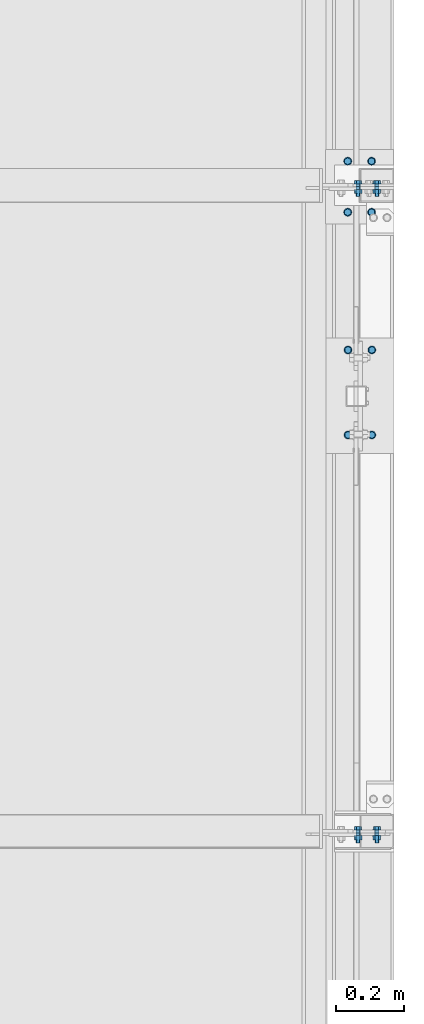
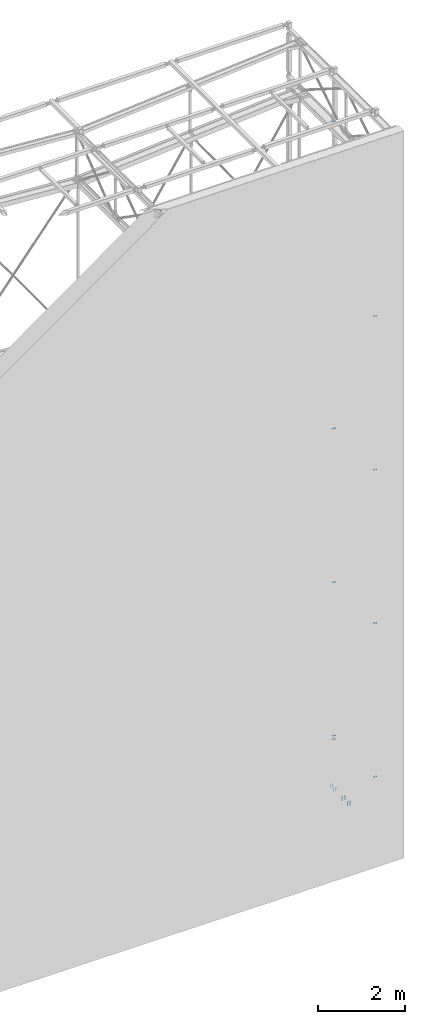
# One storey, part 224 of 271: 11 mechanical fasteners, 10 elements without a shape of their own.
"""IFC2X3 building model written with IfcOpenShell, lengths in millimetres."""

from ifc_helpers import new_model, si_unit, frame, frame_2d, origin_with_axes, origin_2d_with_axis, place, context, subcontext, project, spatial, polyline, circle_curve, parameter, trimmed, segment, composite_curve, circle, outline, extrude, source, transform, mapped, material, type_object, element, aggregate, save


model = new_model("IFC2X3")

# Units and contexts
model_context = context("Model", 3, precision=1e-05, world=origin_with_axes())
body_context = subcontext(model_context, "Body", "Model", "MODEL_VIEW")
ifc_project = project(units=[si_unit("LENGTHUNIT", "METRE", prefix="MILLI"), si_unit("AREAUNIT", "SQUARE_METRE"), si_unit("VOLUMEUNIT", "CUBIC_METRE"), si_unit("MASSUNIT", "GRAM", prefix="KILO"), si_unit("TIMEUNIT", "SECOND"), si_unit("PLANEANGLEUNIT", "RADIAN"), si_unit("SOLIDANGLEUNIT", "STERADIAN"), si_unit("THERMODYNAMICTEMPERATUREUNIT", "DEGREE_CELSIUS"), si_unit("LUMINOUSINTENSITYUNIT", "LUMEN")], contexts=[model_context])

# Site, building, storey
site_placement = place(None, origin_with_axes())
site = spatial("IfcSite", under=ifc_project, at=site_placement, Name="Undefined", CompositionType="ELEMENT")
building_placement = place(site_placement, origin_with_axes())
building = spatial("IfcBuilding", under=site, at=building_placement, Name="Undefined", CompositionType="ELEMENT")
storey_placement = place(building_placement, origin_with_axes())
storey = spatial("IfcBuildingStorey", under=building, at=storey_placement, Name="Undefined", CompositionType="ELEMENT", Elevation=0.0)

# Assembly, mechanical fasteners
assembly_1_placement = place(storey_placement, origin_with_axes())
assembly_1 = element("IfcElementAssembly", 1, at=assembly_1_placement, inside=storey, AssemblyPlace="NOTDEFINED", PredefinedType="REINFORCEMENT_UNIT")
ifc_material = material(Name="Undefined")
mechanical_fastener_type = type_object("IfcMechanicalFastenerType", Name="Bolt assembly")
shared_shape_1 = source(origin_with_axes(), body_context, "Body", "SweptSolid", [
    extrude(circle(Radius=7.0, at=origin_2d_with_axis()), frame((0.0, 8.0, 0.0), z_axis=(0.0, 1.0, 0.0), x_axis=(1.0, 0.0, 0.0)), (0.0, 0.0, 1.0), 16.1),
    extrude(outline(polyline([(10.39230484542, 0.0), (5.19615242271, 9.00000000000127), (-5.19615242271, 9.00000000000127), (-10.39230484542, 0.0), (-5.19615242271, -9.00000000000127), (5.19615242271, -9.00000000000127), (10.39230484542, 0.0)])), frame((0.0, 0.5, 0.0), z_axis=(0.0, 1.0, 0.0), x_axis=(1.0, 0.0, 0.0)), (0.0, 0.0, 1.0), 7.5),
    extrude(circle(Radius=6.0, at=origin_2d_with_axis()), frame((0.0, 8.0, 0.0), z_axis=(0.0, 1.0, 0.0), x_axis=(1.0, 0.0, 0.0)), (0.0, 0.0, 1.0), 100.0),
    extrude(circle(Radius=12.0, at=origin_2d_with_axis()), frame((0.0, 24.0, 0.0), z_axis=(0.0, 1.0, 0.0), x_axis=(1.0, 0.0, 0.0)), (0.0, 0.0, 1.0), 2.5),
    extrude(outline(polyline([(10.96965511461, 0.0), (5.484827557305, 9.50000000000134), (-5.484827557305, 9.50000000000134), (-10.96965511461, 0.0), (-5.484827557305, -9.50000000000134), (5.484827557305, -9.50000000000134), (10.96965511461, 0.0)])), frame((0.0, 26.5, 0.0), z_axis=(0.0, 1.0, 0.0), x_axis=(1.0, 0.0, 0.0)), (0.0, 0.0, 1.0), 10.0),
])
mechanical_fastener_1_placement = place(assembly_1_placement, frame((12607.999999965, 2870.0, 8.0), z_axis=(1.0, 0.0, 0.0), x_axis=(0.0, -1.0, 0.0)))
mechanical_fastener_1 = element("IfcMechanicalFastener", 2, at=mechanical_fastener_1_placement, type_object=mechanical_fastener_type, material=ifc_material, Name="Bolt assembly", NominalDiameter=12.0, NominalLength=100.0, context=body_context, shape_type="MappedRepresentation", body=[
    mapped(shared_shape_1, transform((-4.83169060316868e-13, 0.0, -35.0))),
    mapped(shared_shape_1, transform((150.0, 0.0, -35.0000000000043))),
    mapped(shared_shape_1, transform((5.11590769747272e-13, 0.0, 35.0))),
    mapped(shared_shape_1, transform((150.0, 0.0, 34.9999999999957))),
])
shared_shape_2 = source(origin_with_axes(), body_context, "Body", "SweptSolid", [
    extrude(circle(Radius=7.0, at=origin_2d_with_axis()), frame((0.0, -7.0, 0.0), z_axis=(0.0, 1.0, 0.0), x_axis=(1.0, 0.0, 0.0)), (0.0, 0.0, 1.0), 16.1),
    extrude(outline(polyline([(10.39230484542, 0.0), (5.19615242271, 9.00000000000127), (-5.19615242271, 9.00000000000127), (-10.39230484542, 0.0), (-5.19615242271, -9.00000000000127), (5.19615242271, -9.00000000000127), (10.39230484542, 0.0)])), frame((0.0, -14.5, 0.0), z_axis=(0.0, 1.0, 0.0), x_axis=(1.0, 0.0, 0.0)), (0.0, 0.0, 1.0), 7.5),
    extrude(circle(Radius=6.0, at=origin_2d_with_axis()), frame((0.0, -7.0, 0.0), z_axis=(0.0, 1.0, 0.0), x_axis=(1.0, 0.0, 0.0)), (0.0, 0.0, 1.0), 100.0),
    extrude(circle(Radius=12.0, at=origin_2d_with_axis()), frame((0.0, 9.0, 0.0), z_axis=(0.0, 1.0, 0.0), x_axis=(1.0, 0.0, 0.0)), (0.0, 0.0, 1.0), 2.5),
    extrude(outline(polyline([(10.96965511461, 0.0), (5.484827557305, 9.50000000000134), (-5.484827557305, 9.50000000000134), (-10.96965511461, 0.0), (-5.484827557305, -9.50000000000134), (5.484827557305, -9.50000000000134), (10.96965511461, 0.0)])), frame((0.0, 11.5, 0.0), z_axis=(0.0, 1.0, 0.0), x_axis=(1.0, 0.0, 0.0)), (0.0, 0.0, 1.0), 10.0),
])
mechanical_fastener_2_placement = place(assembly_1_placement, frame((12608.7513747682, 2315.0, -7.0), z_axis=(1.0, 0.0, 0.0), x_axis=(0.0, -1.0, 0.0)))
mechanical_fastener_2 = element("IfcMechanicalFastener", 3, at=mechanical_fastener_2_placement, type_object=mechanical_fastener_type, material=ifc_material, Name="Bolt assembly", NominalDiameter=12.0, NominalLength=100.0, context=body_context, shape_type="MappedRepresentation", body=[
    mapped(shared_shape_2, transform((-4.83169060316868e-13, 0.0, -35.0))),
    mapped(shared_shape_2, transform((250.0, 0.0, -35.0000000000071))),
    mapped(shared_shape_2, transform((5.11590769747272e-13, 0.0, 35.0))),
    mapped(shared_shape_2, transform((250.0, 0.0, 34.9999999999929))),
])
aggregate(assembly_1, [mechanical_fastener_1, mechanical_fastener_2])

# Assembly, mechanical fastener
assembly_2_placement = place(storey_placement, origin_with_axes())
assembly_2 = element("IfcElementAssembly", 4, at=assembly_2_placement, inside=storey, AssemblyPlace="NOTDEFINED", PredefinedType="RIGID_FRAME")
shared_shape_3 = source(origin_with_axes(), body_context, "Body", "SweptSolid", [
    extrude(circle(Radius=6.5, at=origin_2d_with_axis()), frame((0.0, 7.89999999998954, 0.0), z_axis=(0.0, 1.0, 0.0), x_axis=(1.0, 0.0, 0.0)), (0.0, 0.0, 1.0), 8.1),
    extrude(outline(composite_curve([segment(polyline([(6.5, 13.5), (6.5, -13.5)]), True, "CONTINUOUS"), segment(trimmed(circle_curve(frame_2d((0.0, -13.5), x_axis=(1.0, 0.0)), 6.5), [parameter(0.0)], [parameter(3.14159265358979)], False, "PARAMETER"), True, "CONTINUOUS"), segment(polyline([(-6.5, -13.5), (-6.5, 13.5)]), True, "CONTINUOUS"), segment(trimmed(circle_curve(frame_2d((0.0, 13.5), x_axis=(-1.0, 0.0)), 6.5), [parameter(0.0)], [parameter(3.14159265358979)], False, "PARAMETER"), True, "DISCONTINUOUS")], self_intersect=False)), frame((0.0, 0.0999999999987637, 0.0), z_axis=(0.0, 1.0, 0.0), x_axis=(1.0, 0.0, 0.0)), (0.0, 0.0, 1.0), 8.0),
    extrude(outline(polyline([(10.39230484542, 0.0), (5.19615242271, 9.00000000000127), (-5.19615242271, 9.00000000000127), (-10.39230484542, 0.0), (-5.19615242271, -9.00000000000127), (5.19615242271, -9.00000000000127), (10.39230484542, 0.0)])), frame((0.0, -10.0, 0.0), z_axis=(0.0, 1.0, 0.0), x_axis=(1.0, 0.0, 0.0)), (0.0, 0.0, 1.0), 7.5),
    extrude(circle(Radius=6.0, at=origin_2d_with_axis()), frame((0.0, -2.50000000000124, 0.0), z_axis=(0.0, 1.0, 0.0), x_axis=(1.0, 0.0, 0.0)), (0.0, 0.0, 1.0), 40.0),
    extrude(circle(Radius=12.0, at=origin_2d_with_axis()), frame((0.0, -2.50000000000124, 0.0), z_axis=(0.0, 1.0, 0.0), x_axis=(1.0, 0.0, 0.0)), (0.0, 0.0, 1.0), 2.5),
    extrude(circle(Radius=12.0, at=origin_2d_with_axis()), frame((0.0, 16.0, 0.0), z_axis=(0.0, 1.0, 0.0), x_axis=(1.0, 0.0, 0.0)), (0.0, 0.0, 1.0), 2.5),
    extrude(outline(polyline([(10.96965511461, 0.0), (5.484827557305, 9.50000000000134), (-5.484827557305, 9.50000000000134), (-10.96965511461, 0.0), (-5.484827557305, -9.50000000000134), (5.484827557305, -9.50000000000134), (10.96965511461, 0.0)])), frame((0.0, 18.5, 0.0), z_axis=(0.0, 1.0, 0.0), x_axis=(1.0, 0.0, 0.0)), (0.0, 0.0, 1.0), 10.0),
])
mechanical_fastener_3_placement = place(assembly_2_placement, frame((12658.3756870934, 2803.05211980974, 18688.8499999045), z_axis=(0.0, 0.0, 1.0), x_axis=(-1.0, 0.0, 1.38777878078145e-17)))
mechanical_fastener_3 = element("IfcMechanicalFastener", 5, at=mechanical_fastener_3_placement, type_object=mechanical_fastener_type, material=ifc_material, Name="Bolt assembly", NominalDiameter=12.0, NominalLength=40.0, context=body_context, shape_type="MappedRepresentation", body=[
    mapped(shared_shape_3, transform((0.0, 0.0, 0.0))),
    mapped(shared_shape_3, transform((55.0, 0.0, 0.0))),
])
aggregate(assembly_2, [mechanical_fastener_3])

assembly_3_placement = place(storey_placement, origin_with_axes())
assembly_3 = element("IfcElementAssembly", 6, at=assembly_3_placement, inside=storey, AssemblyPlace="NOTDEFINED", PredefinedType="RIGID_FRAME")
shared_shape_4 = source(origin_with_axes(), body_context, "Body", "SweptSolid", [
    extrude(circle(Radius=6.5, at=origin_2d_with_axis()), frame((0.0, 7.89999999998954, 0.0), z_axis=(0.0, 1.0, 0.0), x_axis=(1.0, 0.0, 0.0)), (0.0, 0.0, 1.0), 8.1),
    extrude(outline(composite_curve([segment(polyline([(6.5, 13.5), (6.5, -13.5)]), True, "CONTINUOUS"), segment(trimmed(circle_curve(frame_2d((0.0, -13.5), x_axis=(1.0, 0.0)), 6.5), [parameter(0.0)], [parameter(3.14159265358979)], False, "PARAMETER"), True, "CONTINUOUS"), segment(polyline([(-6.5, -13.5), (-6.5, 13.5)]), True, "CONTINUOUS"), segment(trimmed(circle_curve(frame_2d((0.0, 13.5), x_axis=(-1.0, 0.0)), 6.5), [parameter(0.0)], [parameter(3.14159265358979)], False, "PARAMETER"), True, "DISCONTINUOUS")], self_intersect=False)), frame((0.0, 0.0999999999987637, 0.0), z_axis=(0.0, 1.0, 0.0), x_axis=(1.0, 0.0, 0.0)), (0.0, 0.0, 1.0), 8.0),
    extrude(outline(polyline([(10.39230484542, 0.0), (5.19615242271, 9.00000000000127), (-5.19615242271, 9.00000000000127), (-10.39230484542, 0.0), (-5.19615242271, -9.00000000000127), (5.19615242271, -9.00000000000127), (10.39230484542, 0.0)])), frame((0.0, -10.0, 0.0), z_axis=(0.0, 1.0, 0.0), x_axis=(1.0, 0.0, 0.0)), (0.0, 0.0, 1.0), 7.5),
    extrude(circle(Radius=6.0, at=origin_2d_with_axis()), frame((0.0, -2.50000000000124, 0.0), z_axis=(0.0, 1.0, 0.0), x_axis=(1.0, 0.0, 0.0)), (0.0, 0.0, 1.0), 40.0),
    extrude(circle(Radius=12.0, at=origin_2d_with_axis()), frame((0.0, -2.50000000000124, 0.0), z_axis=(0.0, 1.0, 0.0), x_axis=(1.0, 0.0, 0.0)), (0.0, 0.0, 1.0), 2.5),
    extrude(circle(Radius=12.0, at=origin_2d_with_axis()), frame((0.0, 16.0, 0.0), z_axis=(0.0, 1.0, 0.0), x_axis=(1.0, 0.0, 0.0)), (0.0, 0.0, 1.0), 2.5),
    extrude(outline(polyline([(10.96965511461, 0.0), (5.484827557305, 9.50000000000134), (-5.484827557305, 9.50000000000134), (-10.96965511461, 0.0), (-5.484827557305, -9.50000000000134), (5.484827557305, -9.50000000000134), (10.96965511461, 0.0)])), frame((0.0, 18.5, 0.0), z_axis=(0.0, 1.0, 0.0), x_axis=(1.0, 0.0, 0.0)), (0.0, 0.0, 1.0), 10.0),
])
mechanical_fastener_4_placement = place(assembly_3_placement, frame((12658.3756870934, 2803.05211980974, 1319.8499999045), z_axis=(0.0, 0.0, 1.0), x_axis=(-1.0, 0.0, 1.38777878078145e-17)))
mechanical_fastener_4 = element("IfcMechanicalFastener", 7, at=mechanical_fastener_4_placement, type_object=mechanical_fastener_type, material=ifc_material, Name="Bolt assembly", NominalDiameter=12.0, NominalLength=40.0, context=body_context, shape_type="MappedRepresentation", body=[
    mapped(shared_shape_4, transform((0.0, 0.0, 0.0))),
    mapped(shared_shape_4, transform((55.0, 0.0, 0.0))),
])
aggregate(assembly_3, [mechanical_fastener_4])

assembly_4_placement = place(storey_placement, origin_with_axes())
assembly_4 = element("IfcElementAssembly", 8, at=assembly_4_placement, inside=storey, AssemblyPlace="NOTDEFINED", PredefinedType="RIGID_FRAME")
shared_shape_5 = source(origin_with_axes(), body_context, "Body", "SweptSolid", [
    extrude(circle(Radius=6.5, at=origin_2d_with_axis()), frame((0.0, 7.89999999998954, 0.0), z_axis=(0.0, 1.0, 0.0), x_axis=(1.0, 0.0, 0.0)), (0.0, 0.0, 1.0), 8.1),
    extrude(outline(composite_curve([segment(polyline([(6.5, 13.5), (6.5, -13.5)]), True, "CONTINUOUS"), segment(trimmed(circle_curve(frame_2d((0.0, -13.5), x_axis=(1.0, 0.0)), 6.5), [parameter(0.0)], [parameter(3.14159265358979)], False, "PARAMETER"), True, "CONTINUOUS"), segment(polyline([(-6.5, -13.5), (-6.5, 13.5)]), True, "CONTINUOUS"), segment(trimmed(circle_curve(frame_2d((0.0, 13.5), x_axis=(-1.0, 0.0)), 6.5), [parameter(0.0)], [parameter(3.14159265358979)], False, "PARAMETER"), True, "DISCONTINUOUS")], self_intersect=False)), frame((0.0, 0.0999999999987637, 0.0), z_axis=(0.0, 1.0, 0.0), x_axis=(1.0, 0.0, 0.0)), (0.0, 0.0, 1.0), 8.0),
    extrude(outline(polyline([(10.39230484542, 0.0), (5.19615242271, 9.00000000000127), (-5.19615242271, 9.00000000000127), (-10.39230484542, 0.0), (-5.19615242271, -9.00000000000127), (5.19615242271, -9.00000000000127), (10.39230484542, 0.0)])), frame((0.0, -10.0, 0.0), z_axis=(0.0, 1.0, 0.0), x_axis=(1.0, 0.0, 0.0)), (0.0, 0.0, 1.0), 7.5),
    extrude(circle(Radius=6.0, at=origin_2d_with_axis()), frame((0.0, -2.50000000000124, 0.0), z_axis=(0.0, 1.0, 0.0), x_axis=(1.0, 0.0, 0.0)), (0.0, 0.0, 1.0), 40.0),
    extrude(circle(Radius=12.0, at=origin_2d_with_axis()), frame((0.0, -2.50000000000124, 0.0), z_axis=(0.0, 1.0, 0.0), x_axis=(1.0, 0.0, 0.0)), (0.0, 0.0, 1.0), 2.5),
    extrude(circle(Radius=12.0, at=origin_2d_with_axis()), frame((0.0, 16.0, 0.0), z_axis=(0.0, 1.0, 0.0), x_axis=(1.0, 0.0, 0.0)), (0.0, 0.0, 1.0), 2.5),
    extrude(outline(polyline([(10.96965511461, 0.0), (5.484827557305, 9.50000000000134), (-5.484827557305, 9.50000000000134), (-10.96965511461, 0.0), (-5.484827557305, -9.50000000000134), (5.484827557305, -9.50000000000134), (10.96965511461, 0.0)])), frame((0.0, 18.5, 0.0), z_axis=(0.0, 1.0, 0.0), x_axis=(1.0, 0.0, 0.0)), (0.0, 0.0, 1.0), 10.0),
])
mechanical_fastener_5_placement = place(assembly_4_placement, frame((12658.3756870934, 903.052119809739, 1412.84999990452), z_axis=(0.0, 0.0, 1.0), x_axis=(-1.0, 0.0, 1.38777878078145e-17)))
mechanical_fastener_5 = element("IfcMechanicalFastener", 9, at=mechanical_fastener_5_placement, type_object=mechanical_fastener_type, material=ifc_material, Name="Bolt assembly", NominalDiameter=12.0, NominalLength=40.0, context=body_context, shape_type="MappedRepresentation", body=[
    mapped(shared_shape_5, transform((0.0, 0.0, 0.0))),
    mapped(shared_shape_5, transform((55.0, 0.0, 0.0))),
])
aggregate(assembly_4, [mechanical_fastener_5])

assembly_5_placement = place(storey_placement, origin_with_axes())
assembly_5 = element("IfcElementAssembly", 10, at=assembly_5_placement, inside=storey, AssemblyPlace="NOTDEFINED", PredefinedType="RIGID_FRAME")
shared_shape_6 = source(origin_with_axes(), body_context, "Body", "SweptSolid", [
    extrude(circle(Radius=6.5, at=origin_2d_with_axis()), frame((0.0, 7.89999999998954, 0.0), z_axis=(0.0, 1.0, 0.0), x_axis=(1.0, 0.0, 0.0)), (0.0, 0.0, 1.0), 8.1),
    extrude(outline(composite_curve([segment(polyline([(6.5, 13.5), (6.5, -13.5)]), True, "CONTINUOUS"), segment(trimmed(circle_curve(frame_2d((0.0, -13.5), x_axis=(1.0, 0.0)), 6.5), [parameter(0.0)], [parameter(3.14159265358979)], False, "PARAMETER"), True, "CONTINUOUS"), segment(polyline([(-6.5, -13.5), (-6.5, 13.5)]), True, "CONTINUOUS"), segment(trimmed(circle_curve(frame_2d((0.0, 13.5), x_axis=(-1.0, 0.0)), 6.5), [parameter(0.0)], [parameter(3.14159265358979)], False, "PARAMETER"), True, "DISCONTINUOUS")], self_intersect=False)), frame((0.0, 0.0999999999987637, 0.0), z_axis=(0.0, 1.0, 0.0), x_axis=(1.0, 0.0, 0.0)), (0.0, 0.0, 1.0), 8.0),
    extrude(outline(polyline([(10.39230484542, 0.0), (5.19615242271, 9.00000000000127), (-5.19615242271, 9.00000000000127), (-10.39230484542, 0.0), (-5.19615242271, -9.00000000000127), (5.19615242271, -9.00000000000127), (10.39230484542, 0.0)])), frame((0.0, -10.0, 0.0), z_axis=(0.0, 1.0, 0.0), x_axis=(1.0, 0.0, 0.0)), (0.0, 0.0, 1.0), 7.5),
    extrude(circle(Radius=6.0, at=origin_2d_with_axis()), frame((0.0, -2.50000000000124, 0.0), z_axis=(0.0, 1.0, 0.0), x_axis=(1.0, 0.0, 0.0)), (0.0, 0.0, 1.0), 40.0),
    extrude(circle(Radius=12.0, at=origin_2d_with_axis()), frame((0.0, -2.50000000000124, 0.0), z_axis=(0.0, 1.0, 0.0), x_axis=(1.0, 0.0, 0.0)), (0.0, 0.0, 1.0), 2.5),
    extrude(circle(Radius=12.0, at=origin_2d_with_axis()), frame((0.0, 16.0, 0.0), z_axis=(0.0, 1.0, 0.0), x_axis=(1.0, 0.0, 0.0)), (0.0, 0.0, 1.0), 2.5),
    extrude(outline(polyline([(10.96965511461, 0.0), (5.484827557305, 9.50000000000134), (-5.484827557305, 9.50000000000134), (-10.96965511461, 0.0), (-5.484827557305, -9.50000000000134), (5.484827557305, -9.50000000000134), (10.96965511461, 0.0)])), frame((0.0, 18.5, 0.0), z_axis=(0.0, 1.0, 0.0), x_axis=(1.0, 0.0, 0.0)), (0.0, 0.0, 1.0), 10.0),
])
mechanical_fastener_6_placement = place(assembly_5_placement, frame((12658.3756870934, 2803.05211980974, 1412.84999990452), z_axis=(0.0, 0.0, 1.0), x_axis=(-1.0, 0.0, 1.38777878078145e-17)))
mechanical_fastener_6 = element("IfcMechanicalFastener", 11, at=mechanical_fastener_6_placement, type_object=mechanical_fastener_type, material=ifc_material, Name="Bolt assembly", NominalDiameter=12.0, NominalLength=40.0, context=body_context, shape_type="MappedRepresentation", body=[
    mapped(shared_shape_6, transform((0.0, 0.0, 0.0))),
    mapped(shared_shape_6, transform((55.0, 0.0, 0.0))),
])
aggregate(assembly_5, [mechanical_fastener_6])

assembly_6_placement = place(storey_placement, origin_with_axes())
assembly_6 = element("IfcElementAssembly", 12, at=assembly_6_placement, inside=storey, AssemblyPlace="NOTDEFINED", PredefinedType="RIGID_FRAME")
shared_shape_7 = source(origin_with_axes(), body_context, "Body", "SweptSolid", [
    extrude(circle(Radius=6.5, at=origin_2d_with_axis()), frame((0.0, 7.89999999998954, 0.0), z_axis=(0.0, 1.0, 0.0), x_axis=(1.0, 0.0, 0.0)), (0.0, 0.0, 1.0), 8.1),
    extrude(outline(composite_curve([segment(polyline([(6.5, 13.5), (6.5, -13.5)]), True, "CONTINUOUS"), segment(trimmed(circle_curve(frame_2d((0.0, -13.5), x_axis=(1.0, 0.0)), 6.5), [parameter(0.0)], [parameter(3.14159265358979)], False, "PARAMETER"), True, "CONTINUOUS"), segment(polyline([(-6.5, -13.5), (-6.5, 13.5)]), True, "CONTINUOUS"), segment(trimmed(circle_curve(frame_2d((0.0, 13.5), x_axis=(-1.0, 0.0)), 6.5), [parameter(0.0)], [parameter(3.14159265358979)], False, "PARAMETER"), True, "DISCONTINUOUS")], self_intersect=False)), frame((0.0, 0.0999999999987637, 0.0), z_axis=(0.0, 1.0, 0.0), x_axis=(1.0, 0.0, 0.0)), (0.0, 0.0, 1.0), 8.0),
    extrude(outline(polyline([(10.39230484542, 0.0), (5.19615242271, 9.00000000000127), (-5.19615242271, 9.00000000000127), (-10.39230484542, 0.0), (-5.19615242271, -9.00000000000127), (5.19615242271, -9.00000000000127), (10.39230484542, 0.0)])), frame((0.0, -10.0, 0.0), z_axis=(0.0, 1.0, 0.0), x_axis=(1.0, 0.0, 0.0)), (0.0, 0.0, 1.0), 7.5),
    extrude(circle(Radius=6.0, at=origin_2d_with_axis()), frame((0.0, -2.50000000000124, 0.0), z_axis=(0.0, 1.0, 0.0), x_axis=(1.0, 0.0, 0.0)), (0.0, 0.0, 1.0), 40.0),
    extrude(circle(Radius=12.0, at=origin_2d_with_axis()), frame((0.0, -2.50000000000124, 0.0), z_axis=(0.0, 1.0, 0.0), x_axis=(1.0, 0.0, 0.0)), (0.0, 0.0, 1.0), 2.5),
    extrude(circle(Radius=12.0, at=origin_2d_with_axis()), frame((0.0, 16.0, 0.0), z_axis=(0.0, 1.0, 0.0), x_axis=(1.0, 0.0, 0.0)), (0.0, 0.0, 1.0), 2.5),
    extrude(outline(polyline([(10.96965511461, 0.0), (5.484827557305, 9.50000000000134), (-5.484827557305, 9.50000000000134), (-10.96965511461, 0.0), (-5.484827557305, -9.50000000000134), (5.484827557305, -9.50000000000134), (10.96965511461, 0.0)])), frame((0.0, 18.5, 0.0), z_axis=(0.0, 1.0, 0.0), x_axis=(1.0, 0.0, 0.0)), (0.0, 0.0, 1.0), 10.0),
])
mechanical_fastener_7_placement = place(assembly_6_placement, frame((12658.3756870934, 903.052119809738, 5732.84999990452), z_axis=(0.0, 0.0, 1.0), x_axis=(-1.0, 0.0, 1.38777878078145e-17)))
mechanical_fastener_7 = element("IfcMechanicalFastener", 13, at=mechanical_fastener_7_placement, type_object=mechanical_fastener_type, material=ifc_material, Name="Bolt assembly", NominalDiameter=12.0, NominalLength=40.0, context=body_context, shape_type="MappedRepresentation", body=[
    mapped(shared_shape_7, transform((0.0, 0.0, 0.0))),
    mapped(shared_shape_7, transform((55.0, 0.0, 0.0))),
])
aggregate(assembly_6, [mechanical_fastener_7])

assembly_7_placement = place(storey_placement, origin_with_axes())
assembly_7 = element("IfcElementAssembly", 14, at=assembly_7_placement, inside=storey, AssemblyPlace="NOTDEFINED", PredefinedType="RIGID_FRAME")
shared_shape_8 = source(origin_with_axes(), body_context, "Body", "SweptSolid", [
    extrude(circle(Radius=6.5, at=origin_2d_with_axis()), frame((0.0, 7.89999999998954, 0.0), z_axis=(0.0, 1.0, 0.0), x_axis=(1.0, 0.0, 0.0)), (0.0, 0.0, 1.0), 8.1),
    extrude(outline(composite_curve([segment(polyline([(6.5, 13.5), (6.5, -13.5)]), True, "CONTINUOUS"), segment(trimmed(circle_curve(frame_2d((0.0, -13.5), x_axis=(1.0, 0.0)), 6.5), [parameter(0.0)], [parameter(3.14159265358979)], False, "PARAMETER"), True, "CONTINUOUS"), segment(polyline([(-6.5, -13.5), (-6.5, 13.5)]), True, "CONTINUOUS"), segment(trimmed(circle_curve(frame_2d((0.0, 13.5), x_axis=(-1.0, 0.0)), 6.5), [parameter(0.0)], [parameter(3.14159265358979)], False, "PARAMETER"), True, "DISCONTINUOUS")], self_intersect=False)), frame((0.0, 0.0999999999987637, 0.0), z_axis=(0.0, 1.0, 0.0), x_axis=(1.0, 0.0, 0.0)), (0.0, 0.0, 1.0), 8.0),
    extrude(outline(polyline([(10.39230484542, 0.0), (5.19615242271, 9.00000000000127), (-5.19615242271, 9.00000000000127), (-10.39230484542, 0.0), (-5.19615242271, -9.00000000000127), (5.19615242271, -9.00000000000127), (10.39230484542, 0.0)])), frame((0.0, -10.0, 0.0), z_axis=(0.0, 1.0, 0.0), x_axis=(1.0, 0.0, 0.0)), (0.0, 0.0, 1.0), 7.5),
    extrude(circle(Radius=6.0, at=origin_2d_with_axis()), frame((0.0, -2.50000000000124, 0.0), z_axis=(0.0, 1.0, 0.0), x_axis=(1.0, 0.0, 0.0)), (0.0, 0.0, 1.0), 40.0),
    extrude(circle(Radius=12.0, at=origin_2d_with_axis()), frame((0.0, -2.50000000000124, 0.0), z_axis=(0.0, 1.0, 0.0), x_axis=(1.0, 0.0, 0.0)), (0.0, 0.0, 1.0), 2.5),
    extrude(circle(Radius=12.0, at=origin_2d_with_axis()), frame((0.0, 16.0, 0.0), z_axis=(0.0, 1.0, 0.0), x_axis=(1.0, 0.0, 0.0)), (0.0, 0.0, 1.0), 2.5),
    extrude(outline(polyline([(10.96965511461, 0.0), (5.484827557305, 9.50000000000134), (-5.484827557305, 9.50000000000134), (-10.96965511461, 0.0), (-5.484827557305, -9.50000000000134), (5.484827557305, -9.50000000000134), (10.96965511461, 0.0)])), frame((0.0, 18.5, 0.0), z_axis=(0.0, 1.0, 0.0), x_axis=(1.0, 0.0, 0.0)), (0.0, 0.0, 1.0), 10.0),
])
mechanical_fastener_8_placement = place(assembly_7_placement, frame((12658.3756870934, 2803.05211980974, 5732.84999990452), z_axis=(0.0, 0.0, 1.0), x_axis=(-1.0, 0.0, 1.38777878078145e-17)))
mechanical_fastener_8 = element("IfcMechanicalFastener", 15, at=mechanical_fastener_8_placement, type_object=mechanical_fastener_type, material=ifc_material, Name="Bolt assembly", NominalDiameter=12.0, NominalLength=40.0, context=body_context, shape_type="MappedRepresentation", body=[
    mapped(shared_shape_8, transform((0.0, 0.0, 0.0))),
    mapped(shared_shape_8, transform((55.0, 0.0, 0.0))),
])
aggregate(assembly_7, [mechanical_fastener_8])

assembly_8_placement = place(storey_placement, origin_with_axes())
assembly_8 = element("IfcElementAssembly", 16, at=assembly_8_placement, inside=storey, AssemblyPlace="NOTDEFINED", PredefinedType="RIGID_FRAME")
shared_shape_9 = source(origin_with_axes(), body_context, "Body", "SweptSolid", [
    extrude(circle(Radius=6.5, at=origin_2d_with_axis()), frame((0.0, 7.89999999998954, 0.0), z_axis=(0.0, 1.0, 0.0), x_axis=(1.0, 0.0, 0.0)), (0.0, 0.0, 1.0), 8.1),
    extrude(outline(composite_curve([segment(polyline([(6.5, 13.5), (6.5, -13.5)]), True, "CONTINUOUS"), segment(trimmed(circle_curve(frame_2d((0.0, -13.5), x_axis=(1.0, 0.0)), 6.5), [parameter(0.0)], [parameter(3.14159265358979)], False, "PARAMETER"), True, "CONTINUOUS"), segment(polyline([(-6.5, -13.5), (-6.5, 13.5)]), True, "CONTINUOUS"), segment(trimmed(circle_curve(frame_2d((0.0, 13.5), x_axis=(-1.0, 0.0)), 6.5), [parameter(0.0)], [parameter(3.14159265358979)], False, "PARAMETER"), True, "DISCONTINUOUS")], self_intersect=False)), frame((0.0, 0.0999999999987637, 0.0), z_axis=(0.0, 1.0, 0.0), x_axis=(1.0, 0.0, 0.0)), (0.0, 0.0, 1.0), 8.0),
    extrude(outline(polyline([(10.39230484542, 0.0), (5.19615242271, 9.00000000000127), (-5.19615242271, 9.00000000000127), (-10.39230484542, 0.0), (-5.19615242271, -9.00000000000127), (5.19615242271, -9.00000000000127), (10.39230484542, 0.0)])), frame((0.0, -10.0, 0.0), z_axis=(0.0, 1.0, 0.0), x_axis=(1.0, 0.0, 0.0)), (0.0, 0.0, 1.0), 7.5),
    extrude(circle(Radius=6.0, at=origin_2d_with_axis()), frame((0.0, -2.50000000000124, 0.0), z_axis=(0.0, 1.0, 0.0), x_axis=(1.0, 0.0, 0.0)), (0.0, 0.0, 1.0), 40.0),
    extrude(circle(Radius=12.0, at=origin_2d_with_axis()), frame((0.0, -2.50000000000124, 0.0), z_axis=(0.0, 1.0, 0.0), x_axis=(1.0, 0.0, 0.0)), (0.0, 0.0, 1.0), 2.5),
    extrude(circle(Radius=12.0, at=origin_2d_with_axis()), frame((0.0, 16.0, 0.0), z_axis=(0.0, 1.0, 0.0), x_axis=(1.0, 0.0, 0.0)), (0.0, 0.0, 1.0), 2.5),
    extrude(outline(polyline([(10.96965511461, 0.0), (5.484827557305, 9.50000000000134), (-5.484827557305, 9.50000000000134), (-10.96965511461, 0.0), (-5.484827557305, -9.50000000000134), (5.484827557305, -9.50000000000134), (10.96965511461, 0.0)])), frame((0.0, 18.5, 0.0), z_axis=(0.0, 1.0, 0.0), x_axis=(1.0, 0.0, 0.0)), (0.0, 0.0, 1.0), 10.0),
])
mechanical_fastener_9_placement = place(assembly_8_placement, frame((12658.3756870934, 903.052119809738, 10052.8499999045), z_axis=(0.0, 0.0, 1.0), x_axis=(-1.0, 0.0, 1.38777878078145e-17)))
mechanical_fastener_9 = element("IfcMechanicalFastener", 17, at=mechanical_fastener_9_placement, type_object=mechanical_fastener_type, material=ifc_material, Name="Bolt assembly", NominalDiameter=12.0, NominalLength=40.0, context=body_context, shape_type="MappedRepresentation", body=[
    mapped(shared_shape_9, transform((0.0, 0.0, 0.0))),
    mapped(shared_shape_9, transform((55.0, 0.0, 0.0))),
])
aggregate(assembly_8, [mechanical_fastener_9])

assembly_9_placement = place(storey_placement, origin_with_axes())
assembly_9 = element("IfcElementAssembly", 18, at=assembly_9_placement, inside=storey, AssemblyPlace="NOTDEFINED", PredefinedType="RIGID_FRAME")
shared_shape_10 = source(origin_with_axes(), body_context, "Body", "SweptSolid", [
    extrude(circle(Radius=6.5, at=origin_2d_with_axis()), frame((0.0, 7.89999999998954, 0.0), z_axis=(0.0, 1.0, 0.0), x_axis=(1.0, 0.0, 0.0)), (0.0, 0.0, 1.0), 8.1),
    extrude(outline(composite_curve([segment(polyline([(6.5, 13.5), (6.5, -13.5)]), True, "CONTINUOUS"), segment(trimmed(circle_curve(frame_2d((0.0, -13.5), x_axis=(1.0, 0.0)), 6.5), [parameter(0.0)], [parameter(3.14159265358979)], False, "PARAMETER"), True, "CONTINUOUS"), segment(polyline([(-6.5, -13.5), (-6.5, 13.5)]), True, "CONTINUOUS"), segment(trimmed(circle_curve(frame_2d((0.0, 13.5), x_axis=(-1.0, 0.0)), 6.5), [parameter(0.0)], [parameter(3.14159265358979)], False, "PARAMETER"), True, "DISCONTINUOUS")], self_intersect=False)), frame((0.0, 0.0999999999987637, 0.0), z_axis=(0.0, 1.0, 0.0), x_axis=(1.0, 0.0, 0.0)), (0.0, 0.0, 1.0), 8.0),
    extrude(outline(polyline([(10.39230484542, 0.0), (5.19615242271, 9.00000000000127), (-5.19615242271, 9.00000000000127), (-10.39230484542, 0.0), (-5.19615242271, -9.00000000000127), (5.19615242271, -9.00000000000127), (10.39230484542, 0.0)])), frame((0.0, -10.0, 0.0), z_axis=(0.0, 1.0, 0.0), x_axis=(1.0, 0.0, 0.0)), (0.0, 0.0, 1.0), 7.5),
    extrude(circle(Radius=6.0, at=origin_2d_with_axis()), frame((0.0, -2.50000000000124, 0.0), z_axis=(0.0, 1.0, 0.0), x_axis=(1.0, 0.0, 0.0)), (0.0, 0.0, 1.0), 40.0),
    extrude(circle(Radius=12.0, at=origin_2d_with_axis()), frame((0.0, -2.50000000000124, 0.0), z_axis=(0.0, 1.0, 0.0), x_axis=(1.0, 0.0, 0.0)), (0.0, 0.0, 1.0), 2.5),
    extrude(circle(Radius=12.0, at=origin_2d_with_axis()), frame((0.0, 16.0, 0.0), z_axis=(0.0, 1.0, 0.0), x_axis=(1.0, 0.0, 0.0)), (0.0, 0.0, 1.0), 2.5),
    extrude(outline(polyline([(10.96965511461, 0.0), (5.484827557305, 9.50000000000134), (-5.484827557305, 9.50000000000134), (-10.96965511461, 0.0), (-5.484827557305, -9.50000000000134), (5.484827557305, -9.50000000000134), (10.96965511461, 0.0)])), frame((0.0, 18.5, 0.0), z_axis=(0.0, 1.0, 0.0), x_axis=(1.0, 0.0, 0.0)), (0.0, 0.0, 1.0), 10.0),
])
mechanical_fastener_10_placement = place(assembly_9_placement, frame((12658.3756870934, 2803.05211980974, 10052.8499999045), z_axis=(0.0, 0.0, 1.0), x_axis=(-1.0, 0.0, 1.38777878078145e-17)))
mechanical_fastener_10 = element("IfcMechanicalFastener", 19, at=mechanical_fastener_10_placement, type_object=mechanical_fastener_type, material=ifc_material, Name="Bolt assembly", NominalDiameter=12.0, NominalLength=40.0, context=body_context, shape_type="MappedRepresentation", body=[
    mapped(shared_shape_10, transform((0.0, 0.0, 0.0))),
    mapped(shared_shape_10, transform((55.0, 0.0, 0.0))),
])
aggregate(assembly_9, [mechanical_fastener_10])

assembly_10_placement = place(storey_placement, origin_with_axes())
assembly_10 = element("IfcElementAssembly", 20, at=assembly_10_placement, inside=storey, AssemblyPlace="NOTDEFINED", PredefinedType="RIGID_FRAME")
shared_shape_11 = source(origin_with_axes(), body_context, "Body", "SweptSolid", [
    extrude(circle(Radius=6.5, at=origin_2d_with_axis()), frame((0.0, 7.89999999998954, 0.0), z_axis=(0.0, 1.0, 0.0), x_axis=(1.0, 0.0, 0.0)), (0.0, 0.0, 1.0), 8.1),
    extrude(outline(composite_curve([segment(polyline([(6.5, 13.5), (6.5, -13.5)]), True, "CONTINUOUS"), segment(trimmed(circle_curve(frame_2d((0.0, -13.5), x_axis=(1.0, 0.0)), 6.5), [parameter(0.0)], [parameter(3.14159265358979)], False, "PARAMETER"), True, "CONTINUOUS"), segment(polyline([(-6.5, -13.5), (-6.5, 13.5)]), True, "CONTINUOUS"), segment(trimmed(circle_curve(frame_2d((0.0, 13.5), x_axis=(-1.0, 0.0)), 6.5), [parameter(0.0)], [parameter(3.14159265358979)], False, "PARAMETER"), True, "DISCONTINUOUS")], self_intersect=False)), frame((0.0, 0.0999999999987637, 0.0), z_axis=(0.0, 1.0, 0.0), x_axis=(1.0, 0.0, 0.0)), (0.0, 0.0, 1.0), 8.0),
    extrude(outline(polyline([(10.39230484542, 0.0), (5.19615242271, 9.00000000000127), (-5.19615242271, 9.00000000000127), (-10.39230484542, 0.0), (-5.19615242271, -9.00000000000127), (5.19615242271, -9.00000000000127), (10.39230484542, 0.0)])), frame((0.0, -10.0, 0.0), z_axis=(0.0, 1.0, 0.0), x_axis=(1.0, 0.0, 0.0)), (0.0, 0.0, 1.0), 7.5),
    extrude(circle(Radius=6.0, at=origin_2d_with_axis()), frame((0.0, -2.50000000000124, 0.0), z_axis=(0.0, 1.0, 0.0), x_axis=(1.0, 0.0, 0.0)), (0.0, 0.0, 1.0), 40.0),
    extrude(circle(Radius=12.0, at=origin_2d_with_axis()), frame((0.0, -2.50000000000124, 0.0), z_axis=(0.0, 1.0, 0.0), x_axis=(1.0, 0.0, 0.0)), (0.0, 0.0, 1.0), 2.5),
    extrude(circle(Radius=12.0, at=origin_2d_with_axis()), frame((0.0, 16.0, 0.0), z_axis=(0.0, 1.0, 0.0), x_axis=(1.0, 0.0, 0.0)), (0.0, 0.0, 1.0), 2.5),
    extrude(outline(polyline([(10.96965511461, 0.0), (5.484827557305, 9.50000000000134), (-5.484827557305, 9.50000000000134), (-10.96965511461, 0.0), (-5.484827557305, -9.50000000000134), (5.484827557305, -9.50000000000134), (10.96965511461, 0.0)])), frame((0.0, 18.5, 0.0), z_axis=(0.0, 1.0, 0.0), x_axis=(1.0, 0.0, 0.0)), (0.0, 0.0, 1.0), 10.0),
])
mechanical_fastener_11_placement = place(assembly_10_placement, frame((12658.3756870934, 903.052119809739, 14372.8499999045), z_axis=(0.0, 0.0, 1.0), x_axis=(-1.0, 0.0, 1.38777878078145e-17)))
mechanical_fastener_11 = element("IfcMechanicalFastener", 21, at=mechanical_fastener_11_placement, type_object=mechanical_fastener_type, material=ifc_material, Name="Bolt assembly", NominalDiameter=12.0, NominalLength=40.0, context=body_context, shape_type="MappedRepresentation", body=[
    mapped(shared_shape_11, transform((0.0, 0.0, 0.0))),
    mapped(shared_shape_11, transform((55.0, 0.0, 0.0))),
])
aggregate(assembly_10, [mechanical_fastener_11])

save(model, "model.ifc")
